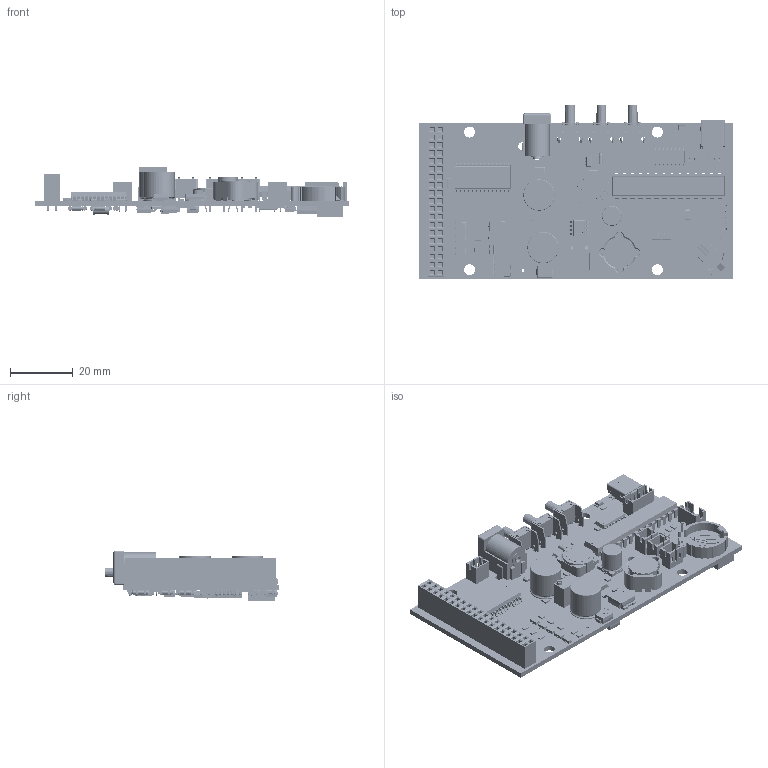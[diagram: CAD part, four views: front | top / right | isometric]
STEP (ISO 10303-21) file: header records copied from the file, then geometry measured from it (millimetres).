
FILE_DESCRIPTION(('Open CASCADE Model'),'2;1');
FILE_NAME('Open CASCADE Shape Model','2018-01-29T17:08:21',('Author'),( 'Open CASCADE'),'Open CASCADE STEP processor 6.8','Open CASCADE 6.8' ,'Unknown');
FILE_SCHEMA(('AUTOMOTIVE_DESIGN { 1 0 10303 214 1 1 1 1 }'));
Products named in the file (1): PCB
Bounding box: 100 x 55.7 x 16.29 mm (x, y, z)
Volume: 10500.2 mm3; surface area: 29799 mm2
Topology: 55 solids, 6598 shells, 10796 faces, 43486 edges, 38804 vertices
Faces by surface type: plane 6078, cylinder 2959, bspline 996, sphere 434, torus 288, cone 39, revolution 2
Full cylindrical faces by diameter (mm): 0.9 x87, 1.1 x9, 1.3 x6, 1.4 x1, 2.5 x3, 3.5 x4
Entity records: 553610 total; most frequent: CARTESIAN_POINT 157222, DIRECTION 67836, ORIENTED_EDGE 52989, EDGE_CURVE 42893, VERTEX_POINT 38804, LINE 29858, VECTOR 29858, AXIS2_PLACEMENT_3D 18988
